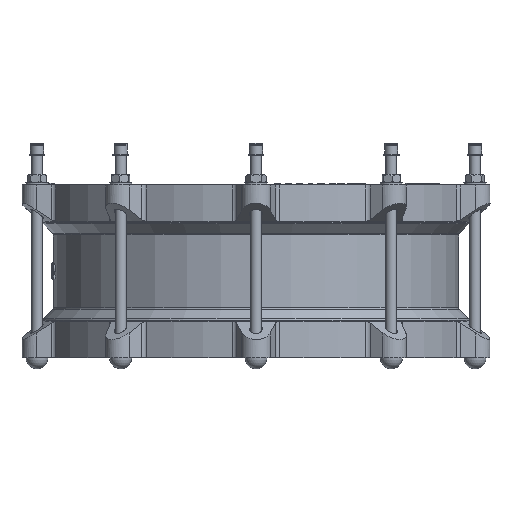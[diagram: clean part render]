
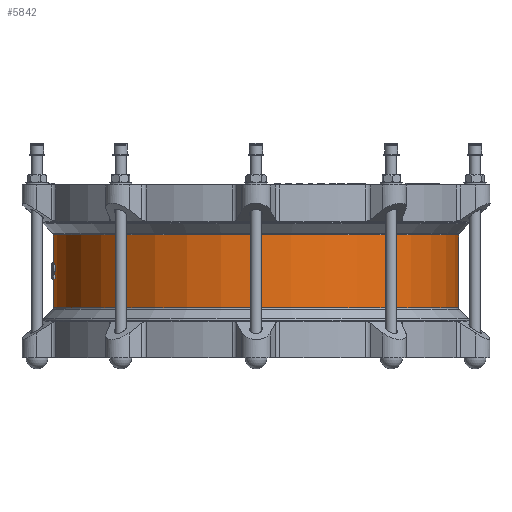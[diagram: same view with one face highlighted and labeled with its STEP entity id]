
A CAD part, left-side view. The second image highlights one B-rep face of the part: STEP entity #5842.
In plain terms, the highlighted cylindrical face has radius 256 mm (diameter 512 mm), a full revolution.
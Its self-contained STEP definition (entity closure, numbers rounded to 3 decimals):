
#5842=ADVANCED_FACE('',(#11001,#11003),#11005,.T.);
#11001=FACE_OUTER_BOUND('',#11002,.T.);
#11002=EDGE_LOOP('',(#16157));
#11003=FACE_OUTER_BOUND('',#11004,.T.);
#11004=EDGE_LOOP('',(#16158));
#11005=CYLINDRICAL_SURFACE('',#11006,256.);
#11006=AXIS2_PLACEMENT_3D('',#11007,#11008,#11009);
#11007=CARTESIAN_POINT('',(0.,0.,47.257));
#11008=DIRECTION('',(0.,0.,-1.));
#11009=DIRECTION('',(0.,1.,0.));
#16157=ORIENTED_EDGE('',*,*,#18418,.T.);
#16158=ORIENTED_EDGE('',*,*,#18419,.F.);
#18418=EDGE_CURVE('',#21535,#21535,#21536,.T.);
#18419=EDGE_CURVE('',#21537,#21537,#21538,.T.);
#21535=VERTEX_POINT('',#34095);
#21536=CIRCLE('',#34096,256.);
#21537=VERTEX_POINT('',#34100);
#21538=CIRCLE('',#34101,256.);
#34095=CARTESIAN_POINT('',(0.,256.,46.015));
#34096=AXIS2_PLACEMENT_3D('',#34097,#34098,#34099);
#34097=CARTESIAN_POINT('',(0.,0.,46.015));
#34098=DIRECTION('',(0.,0.,-1.));
#34099=DIRECTION('',(0.,1.,0.));
#34100=CARTESIAN_POINT('',(0.,256.,-46.015));
#34101=AXIS2_PLACEMENT_3D('',#34102,#34103,#34104);
#34102=CARTESIAN_POINT('',(0.,0.,-46.015));
#34103=DIRECTION('',(0.,0.,-1.));
#34104=DIRECTION('',(0.,1.,0.));
